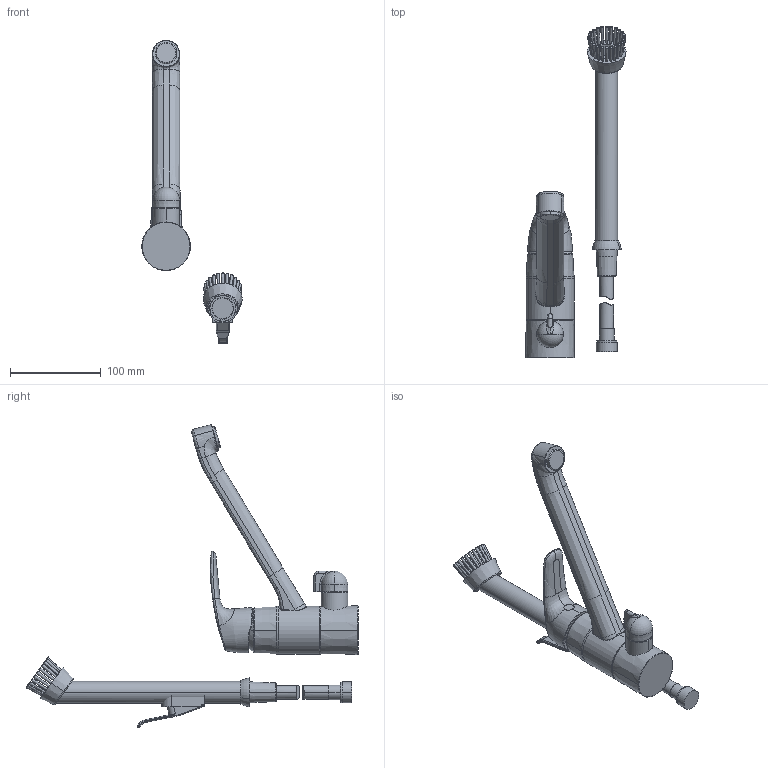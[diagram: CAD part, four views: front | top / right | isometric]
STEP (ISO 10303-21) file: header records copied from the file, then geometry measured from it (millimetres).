
FILE_DESCRIPTION (( 'STEP AP203' ), '1' );
FILE_NAME ('1027FS(2021).STEP', '2021-01-19T10:53:18', ( '' ), ( '' ), 'SwSTEP 2.0', 'SolidWorks 2016', '' );
FILE_SCHEMA (( 'CONFIG_CONTROL_DESIGN' ));
Length unit declared in the file: millimetre
Products named in the file (1): 1027FS(2021)
Bounding box: 110.86 x 366.42 x 334.41 mm (x, y, z)
Volume: 659946.1 mm3; surface area: 118633.2 mm2
Topology: 15 solids, 15 shells, 372 faces, 820 edges, 503 vertices
Faces by surface type: bspline 142, plane 88, cone 69, cylinder 48, torus 25
Entity records: 29546 total; most frequent: CARTESIAN_POINT 22468, ORIENTED_EDGE 1630, DIRECTION 1110, EDGE_CURVE 815, VERTEX_POINT 503, AXIS2_PLACEMENT_3D 470, EDGE_LOOP 402, B_SPLINE_CURVE_WITH_KNOTS 393
